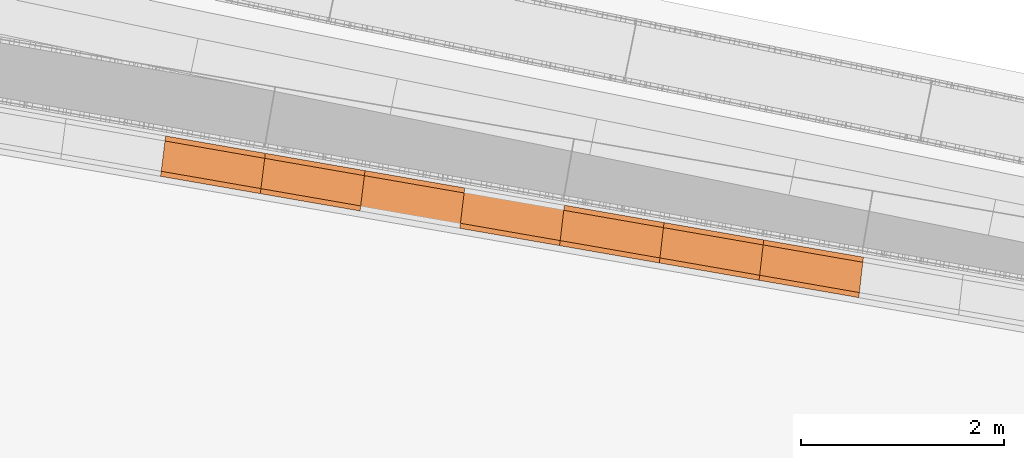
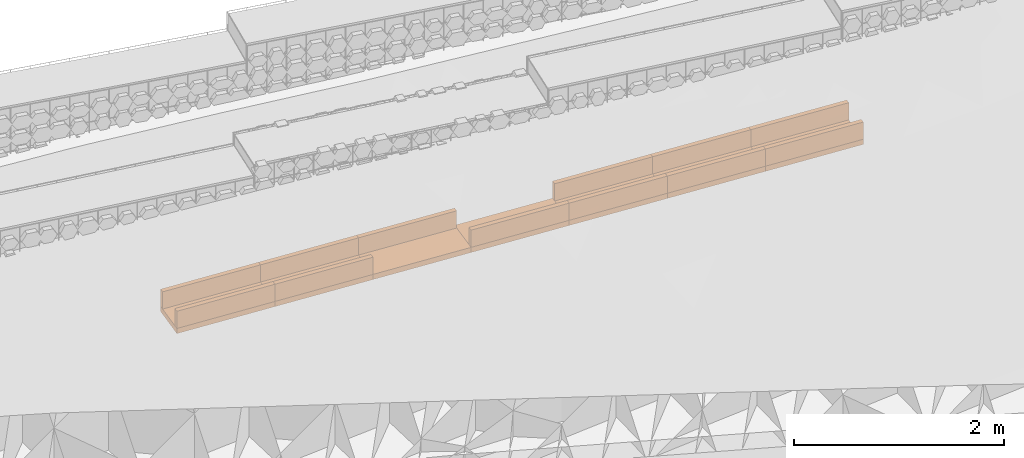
# Not in any storey, part 33 of 46: 19 proxies.
"""IFC4 model written with IfcOpenShell, lengths in metres."""

from ifc_helpers import new_model, si_unit, direction, frame, origin_with_axes, place, context, subcontext, project, spatial, polygons, material, element, save


model = new_model("IFC4")

# Units and contexts
model_context = context("Model", 3, precision=1e-05, world=origin_with_axes(), true_north=direction((0.0, 1.0)))
body_context = subcontext(model_context, "Body", "Model", "MODEL_VIEW")
ifc_project = project(units=[si_unit("VOLUMEUNIT", "CUBIC_METRE"), si_unit("LENGTHUNIT", "METRE"), si_unit("AREAUNIT", "SQUARE_METRE")], contexts=[model_context])

# Site
site_placement = place(None, origin_with_axes())
site = spatial("IfcSite", under=ifc_project, at=site_placement, Name="Lares · Rua das Mercês · artigo 4771")

# Proxies
ifc_material = material(Name="Caleiras · betão", Category="concrete")
proxy_1_placement = place(site_placement, frame((0.0, 0.0, 0.0), z_axis=(0.0, 0.0, 1.0), x_axis=(1.0, -1.03767253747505e-17, 0.0)))
element("IfcBuildingElementProxy", 1, at=proxy_1_placement, inside=site, material=ifc_material, Name="Acesso · canal lateral", ObjectType="Acesso · canal lateral", PredefinedType="USERDEFINED", context=body_context, shape_type="Tessellation", body=[
    polygons([(64.5883202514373, 8.87114563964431, 14.4534964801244), (64.6383043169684, 9.26801034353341, 14.4534964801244), (65.6186054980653, 9.0976955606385, 14.5279545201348), (65.5686214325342, 8.7008308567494, 14.5279545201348), (64.5883202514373, 8.87114563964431, 14.5134964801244), (64.6383043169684, 9.26801034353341, 14.5134964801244), (65.6186054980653, 9.0976955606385, 14.5879545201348), (65.5686214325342, 8.7008308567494, 14.5879545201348)], [[[4, 3, 2, 1]], [[5, 6, 7, 8]], [[1, 2, 6, 5]], [[2, 3, 7, 6]], [[3, 4, 8, 7]], [[4, 1, 5, 8]]]),
])
proxy_2_placement = place(site_placement, frame((0.0, 0.0, 0.0), z_axis=(0.0, 0.0, 1.0), x_axis=(1.0, -1.03767253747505e-17, 0.0)))
element("IfcBuildingElementProxy", 2, at=proxy_2_placement, inside=site, material=ifc_material, Name="Acesso · canal lateral", ObjectType="Acesso · canal lateral", PredefinedType="USERDEFINED", context=body_context, shape_type="Tessellation", body=[
    polygons([(64.5883202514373, 8.87114563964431, 14.5134964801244), (64.5945682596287, 8.92075372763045, 14.5134964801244), (65.5748694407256, 8.75043894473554, 14.5879545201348), (65.5686214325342, 8.7008308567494, 14.5879545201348), (64.5883202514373, 8.87114563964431, 14.7134964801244), (64.5945682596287, 8.92075372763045, 14.7134964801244), (65.5748694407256, 8.75043894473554, 14.7879545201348), (65.5686214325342, 8.7008308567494, 14.7879545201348)], [[[4, 3, 2, 1]], [[5, 6, 7, 8]], [[1, 2, 6, 5]], [[2, 3, 7, 6]], [[3, 4, 8, 7]], [[4, 1, 5, 8]]]),
])
proxy_3_placement = place(site_placement, frame((0.0, 0.0, 0.0), z_axis=(0.0, 0.0, 1.0), x_axis=(1.0, -1.03767253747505e-17, 0.0)))
element("IfcBuildingElementProxy", 3, at=proxy_3_placement, inside=site, material=ifc_material, Name="Acesso · canal lateral", ObjectType="Acesso · canal lateral", PredefinedType="USERDEFINED", context=body_context, shape_type="Tessellation", body=[
    polygons([(64.632056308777, 9.21840225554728, 14.5134964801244), (64.6383043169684, 9.26801034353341, 14.5134964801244), (65.6186054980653, 9.0976955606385, 14.5879545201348), (65.6123574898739, 9.04808747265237, 14.5879545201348), (64.632056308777, 9.21840225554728, 14.7134964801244), (64.6383043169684, 9.26801034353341, 14.7134964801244), (65.6186054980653, 9.0976955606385, 14.7879545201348), (65.6123574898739, 9.04808747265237, 14.7879545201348)], [[[4, 3, 2, 1]], [[5, 6, 7, 8]], [[1, 2, 6, 5]], [[2, 3, 7, 6]], [[3, 4, 8, 7]], [[4, 1, 5, 8]]]),
])
proxy_4_placement = place(site_placement, frame((0.0, 0.0, 0.0), z_axis=(0.0, 0.0, 1.0), x_axis=(1.0, -1.03767253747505e-17, 0.0)))
element("IfcBuildingElementProxy", 4, at=proxy_4_placement, inside=site, material=ifc_material, Name="Acesso · canal lateral", ObjectType="Acesso · canal lateral", PredefinedType="USERDEFINED", context=body_context, shape_type="Tessellation", body=[
    polygons([(65.5689536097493, 8.70078930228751, 14.5279545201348), (65.6182733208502, 9.09773711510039, 14.5279545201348), (66.5985619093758, 8.9274231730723, 14.6024125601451), (66.5492421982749, 8.53047536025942, 14.6024125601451), (65.5689536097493, 8.70078930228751, 14.5879545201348), (65.6182733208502, 9.09773711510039, 14.5879545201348), (66.5985619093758, 8.9274231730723, 14.6624125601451), (66.5492421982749, 8.53047536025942, 14.6624125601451)], [[[4, 3, 2, 1]], [[5, 6, 7, 8]], [[1, 2, 6, 5]], [[2, 3, 7, 6]], [[3, 4, 8, 7]], [[4, 1, 5, 8]]]),
])
proxy_5_placement = place(site_placement, frame((0.0, 0.0, 0.0), z_axis=(0.0, 0.0, 1.0), x_axis=(1.0, -1.03767253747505e-17, 0.0)))
element("IfcBuildingElementProxy", 5, at=proxy_5_placement, inside=site, material=ifc_material, Name="Acesso · canal lateral", ObjectType="Acesso · canal lateral", PredefinedType="USERDEFINED", context=body_context, shape_type="Tessellation", body=[
    polygons([(65.5689536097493, 8.70078930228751, 14.5879545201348), (65.575118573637, 8.75040777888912, 14.5879545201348), (66.5554071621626, 8.58009383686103, 14.6624125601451), (66.5492421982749, 8.53047536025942, 14.6624125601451), (65.5689536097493, 8.70078930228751, 14.7879545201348), (65.575118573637, 8.75040777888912, 14.7879545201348), (66.5554071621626, 8.58009383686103, 14.8624125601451), (66.5492421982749, 8.53047536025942, 14.8624125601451)], [[[4, 3, 2, 1]], [[5, 6, 7, 8]], [[1, 2, 6, 5]], [[2, 3, 7, 6]], [[3, 4, 8, 7]], [[4, 1, 5, 8]]]),
])
proxy_6_placement = place(site_placement, frame((0.0, 0.0, 0.0), z_axis=(0.0, 0.0, 1.0), x_axis=(1.0, -1.03767253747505e-17, 0.0)))
element("IfcBuildingElementProxy", 6, at=proxy_6_placement, inside=site, material=ifc_material, Name="Acesso · canal lateral", ObjectType="Acesso · canal lateral", PredefinedType="USERDEFINED", context=body_context, shape_type="Tessellation", body=[
    polygons([(65.6121083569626, 9.04811863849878, 14.5879545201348), (65.6182733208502, 9.09773711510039, 14.5879545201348), (66.5985619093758, 8.9274231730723, 14.6624125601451), (66.5923969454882, 8.87780469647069, 14.6624125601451), (65.6121083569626, 9.04811863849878, 14.7879545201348), (65.6182733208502, 9.09773711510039, 14.7879545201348), (66.5985619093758, 8.9274231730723, 14.8624125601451), (66.5923969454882, 8.87780469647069, 14.8624125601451)], [[[4, 3, 2, 1]], [[5, 6, 7, 8]], [[1, 2, 6, 5]], [[2, 3, 7, 6]], [[3, 4, 8, 7]], [[4, 1, 5, 8]]]),
])
proxy_7_placement = place(site_placement, frame((0.0, 0.0, 0.0), z_axis=(0.0, 0.0, 1.0), x_axis=(1.0, -1.03767253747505e-17, 0.0)))
element("IfcBuildingElementProxy", 7, at=proxy_7_placement, inside=site, material=ifc_material, Name="Acesso · canal lateral", ObjectType="Acesso · canal lateral", PredefinedType="USERDEFINED", context=body_context, shape_type="Tessellation", body=[
    polygons([(66.5495842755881, 8.53043315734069, 14.6024125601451), (66.5982198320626, 8.92746537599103, 14.6024125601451), (67.5784952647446, 8.75715227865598, 14.6768706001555), (67.5298597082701, 8.36012006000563, 14.6768706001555), (66.5495842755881, 8.53043315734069, 14.6624125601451), (66.5982198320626, 8.92746537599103, 14.6624125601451), (67.5784952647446, 8.75715227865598, 14.7368706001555), (67.5298597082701, 8.36012006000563, 14.7368706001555)], [[[4, 3, 2, 1]], [[5, 6, 7, 8]], [[1, 2, 6, 5]], [[2, 3, 7, 6]], [[3, 4, 8, 7]], [[4, 1, 5, 8]]]),
])
proxy_8_placement = place(site_placement, frame((0.0, 0.0, 0.0), z_axis=(0.0, 0.0, 1.0), x_axis=(1.0, -1.03767253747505e-17, 0.0)))
element("IfcBuildingElementProxy", 8, at=proxy_8_placement, inside=site, material=ifc_material, Name="Acesso · canal lateral", ObjectType="Acesso · canal lateral", PredefinedType="USERDEFINED", context=body_context, shape_type="Tessellation", body=[
    polygons([(66.5921403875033, 8.87783634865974, 14.6624125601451), (66.5982198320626, 8.92746537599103, 14.6624125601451), (67.5784952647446, 8.75715227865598, 14.7368706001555), (67.5724158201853, 8.70752325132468, 14.7368706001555), (66.5921403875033, 8.87783634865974, 14.8624125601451), (66.5982198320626, 8.92746537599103, 14.8624125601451), (67.5784952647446, 8.75715227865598, 14.9368706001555), (67.5724158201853, 8.70752325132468, 14.9368706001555)], [[[4, 3, 2, 1]], [[5, 6, 7, 8]], [[1, 2, 6, 5]], [[2, 3, 7, 6]], [[3, 4, 8, 7]], [[4, 1, 5, 8]]]),
])
proxy_9_placement = place(site_placement, frame((0.0, 0.0, 0.0), z_axis=(0.0, 0.0, 1.0), x_axis=(1.0, -1.03767253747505e-17, 0.0)))
element("IfcBuildingElementProxy", 9, at=proxy_9_placement, inside=site, material=ifc_material, Name="Acesso · canal lateral", ObjectType="Acesso · canal lateral", PredefinedType="USERDEFINED", context=body_context, shape_type="Tessellation", body=[
    polygons([(67.5302121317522, 8.36007720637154, 14.6768706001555), (67.5781428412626, 8.75719513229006, 14.6768706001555), (68.5584045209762, 8.58688288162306, 14.7513286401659), (68.5104738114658, 8.18976495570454, 14.7513286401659), (67.5302121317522, 8.36007720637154, 14.7368706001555), (67.5781428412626, 8.75719513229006, 14.7368706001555), (68.5584045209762, 8.58688288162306, 14.8113286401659), (68.5104738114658, 8.18976495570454, 14.8113286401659)], [[[4, 3, 2, 1]], [[5, 6, 7, 8]], [[1, 2, 6, 5]], [[2, 3, 7, 6]], [[3, 4, 8, 7]], [[4, 1, 5, 8]]]),
])
proxy_10_placement = place(site_placement, frame((0.0, 0.0, 0.0), z_axis=(0.0, 0.0, 1.0), x_axis=(1.0, -1.03767253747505e-17, 0.0)))
element("IfcBuildingElementProxy", 10, at=proxy_10_placement, inside=site, material=ifc_material, Name="Acesso · canal lateral", ObjectType="Acesso · canal lateral", PredefinedType="USERDEFINED", context=body_context, shape_type="Tessellation", body=[
    polygons([(67.5302121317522, 8.36007720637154, 14.7368706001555), (67.536203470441, 8.40971694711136, 14.7368706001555), (68.5164651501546, 8.23940469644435, 14.8113286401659), (68.5104738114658, 8.18976495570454, 14.8113286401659), (67.5302121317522, 8.36007720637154, 14.9368706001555), (67.536203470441, 8.40971694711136, 14.9368706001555), (68.5164651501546, 8.23940469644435, 15.0113286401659), (68.5104738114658, 8.18976495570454, 15.0113286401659)], [[[4, 3, 2, 1]], [[5, 6, 7, 8]], [[1, 2, 6, 5]], [[2, 3, 7, 6]], [[3, 4, 8, 7]], [[4, 1, 5, 8]]]),
])
proxy_11_placement = place(site_placement, frame((0.0, 0.0, 0.0), z_axis=(0.0, 0.0, 1.0), x_axis=(1.0, -1.03767253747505e-17, 0.0)))
element("IfcBuildingElementProxy", 11, at=proxy_11_placement, inside=site, material=ifc_material, Name="Acesso · canal lateral", ObjectType="Acesso · canal lateral", PredefinedType="USERDEFINED", context=body_context, shape_type="Tessellation", body=[
    polygons([(68.5108370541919, 8.18972145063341, 14.7513286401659), (68.5580412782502, 8.58692638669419, 14.7513286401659), (69.5382885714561, 8.41661498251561, 14.8257866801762), (69.4910843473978, 8.01941004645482, 14.8257866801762), (68.5108370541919, 8.18972145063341, 14.8113286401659), (68.5580412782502, 8.58692638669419, 14.8113286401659), (69.5382885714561, 8.41661498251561, 14.8857866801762), (69.4910843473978, 8.01941004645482, 14.8857866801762)], [[[4, 3, 2, 1]], [[5, 6, 7, 8]], [[1, 2, 6, 5]], [[2, 3, 7, 6]], [[3, 4, 8, 7]], [[4, 1, 5, 8]]]),
])
proxy_12_placement = place(site_placement, frame((0.0, 0.0, 0.0), z_axis=(0.0, 0.0, 1.0), x_axis=(1.0, -1.03767253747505e-17, 0.0)))
element("IfcBuildingElementProxy", 12, at=proxy_12_placement, inside=site, material=ifc_material, Name="Acesso · canal lateral", ObjectType="Acesso · canal lateral", PredefinedType="USERDEFINED", context=body_context, shape_type="Tessellation", body=[
    polygons([(68.5108370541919, 8.18972145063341, 14.8113286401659), (68.5167375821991, 8.239372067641, 14.8113286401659), (69.4969848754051, 8.06906066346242, 14.8857866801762), (69.4910843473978, 8.01941004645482, 14.8857866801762), (68.5108370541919, 8.18972145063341, 15.0113286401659), (68.5167375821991, 8.239372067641, 15.0113286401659), (69.4969848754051, 8.06906066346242, 15.0857866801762), (69.4910843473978, 8.01941004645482, 15.0857866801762)], [[[4, 3, 2, 1]], [[5, 6, 7, 8]], [[1, 2, 6, 5]], [[2, 3, 7, 6]], [[3, 4, 8, 7]], [[4, 1, 5, 8]]]),
])
proxy_13_placement = place(site_placement, frame((0.0, 0.0, 0.0), z_axis=(0.0, 0.0, 1.0), x_axis=(1.0, -1.03767253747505e-17, 0.0)))
element("IfcBuildingElementProxy", 13, at=proxy_13_placement, inside=site, material=ifc_material, Name="Acesso · canal lateral", ObjectType="Acesso · canal lateral", PredefinedType="USERDEFINED", context=body_context, shape_type="Tessellation", body=[
    polygons([(68.5521407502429, 8.53727576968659, 14.8113286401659), (68.5580412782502, 8.58692638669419, 14.8113286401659), (69.5382885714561, 8.41661498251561, 14.8857866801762), (69.5323880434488, 8.36696436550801, 14.8857866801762), (68.5521407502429, 8.53727576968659, 15.0113286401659), (68.5580412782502, 8.58692638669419, 15.0113286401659), (69.5382885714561, 8.41661498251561, 15.0857866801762), (69.5323880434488, 8.36696436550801, 15.0857866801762)], [[[4, 3, 2, 1]], [[5, 6, 7, 8]], [[1, 2, 6, 5]], [[2, 3, 7, 6]], [[3, 4, 8, 7]], [[4, 1, 5, 8]]]),
])
proxy_14_placement = place(site_placement, frame((0.0, 0.0, 0.0), z_axis=(0.0, 0.0, 1.0), x_axis=(1.0, -1.03767253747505e-17, 0.0)))
element("IfcBuildingElementProxy", 14, at=proxy_14_placement, inside=site, material=ifc_material, Name="Acesso · canal lateral", ObjectType="Acesso · canal lateral", PredefinedType="USERDEFINED", context=body_context, shape_type="Tessellation", body=[
    polygons([(69.491458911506, 8.01936589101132, 14.8257866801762), (69.5379140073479, 8.41665913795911, 14.8257866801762), (70.518146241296, 8.24634857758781, 14.9002447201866), (70.4716911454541, 7.84905533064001, 14.9002447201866), (69.491458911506, 8.01936589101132, 14.8857866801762), (69.5379140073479, 8.41665913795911, 14.8857866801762), (70.518146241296, 8.24634857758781, 14.9602447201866), (70.4716911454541, 7.84905533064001, 14.9602447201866)], [[[4, 3, 2, 1]], [[5, 6, 7, 8]], [[1, 2, 6, 5]], [[2, 3, 7, 6]], [[3, 4, 8, 7]], [[4, 1, 5, 8]]]),
])
proxy_15_placement = place(site_placement, frame((0.0, 0.0, 0.0), z_axis=(0.0, 0.0, 1.0), x_axis=(1.0, -1.03767253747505e-17, 0.0)))
element("IfcBuildingElementProxy", 15, at=proxy_15_placement, inside=site, material=ifc_material, Name="Acesso · canal lateral", ObjectType="Acesso · canal lateral", PredefinedType="USERDEFINED", context=body_context, shape_type="Tessellation", body=[
    polygons([(69.491458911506, 8.01936589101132, 14.8857866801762), (69.4972657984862, 8.06902754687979, 14.8857866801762), (70.4774980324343, 7.89871698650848, 14.9602447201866), (70.4716911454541, 7.84905533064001, 14.9602447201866), (69.491458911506, 8.01936589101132, 15.0857866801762), (69.4972657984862, 8.06902754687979, 15.0857866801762), (70.4774980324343, 7.89871698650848, 15.1602447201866), (70.4716911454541, 7.84905533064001, 15.1602447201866)], [[[4, 3, 2, 1]], [[5, 6, 7, 8]], [[1, 2, 6, 5]], [[2, 3, 7, 6]], [[3, 4, 8, 7]], [[4, 1, 5, 8]]]),
])
proxy_16_placement = place(site_placement, frame((0.0, 0.0, 0.0), z_axis=(0.0, 0.0, 1.0), x_axis=(1.0, -1.03767253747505e-17, 0.0)))
element("IfcBuildingElementProxy", 16, at=proxy_16_placement, inside=site, material=ifc_material, Name="Acesso · canal lateral", ObjectType="Acesso · canal lateral", PredefinedType="USERDEFINED", context=body_context, shape_type="Tessellation", body=[
    polygons([(69.5321071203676, 8.36699748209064, 14.8857866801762), (69.5379140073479, 8.41665913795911, 14.8857866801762), (70.5181462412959, 8.2463485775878, 14.9602447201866), (70.5123393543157, 8.19668692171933, 14.9602447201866), (69.5321071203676, 8.36699748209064, 15.0857866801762), (69.5379140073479, 8.41665913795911, 15.0857866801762), (70.5181462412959, 8.2463485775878, 15.1602447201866), (70.5123393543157, 8.19668692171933, 15.1602447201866)], [[[4, 3, 2, 1]], [[5, 6, 7, 8]], [[1, 2, 6, 5]], [[2, 3, 7, 6]], [[3, 4, 8, 7]], [[4, 1, 5, 8]]]),
])
proxy_17_placement = place(site_placement, frame((0.0, 0.0, 0.0), z_axis=(0.0, 0.0, 1.0), x_axis=(1.0, -1.03767253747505e-17, 0.0)))
element("IfcBuildingElementProxy", 17, at=proxy_17_placement, inside=site, material=ifc_material, Name="Acesso · canal lateral", ObjectType="Acesso · canal lateral", PredefinedType="USERDEFINED", context=body_context, shape_type="Tessellation", body=[
    polygons([(70.4720775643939, 7.84901052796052, 14.9002447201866), (70.5177598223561, 8.2463933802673, 14.9002447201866), (71.4979762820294, 8.07608365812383, 14.9747027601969), (71.4522940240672, 7.67870080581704, 14.9747027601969), (70.4720775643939, 7.84901052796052, 14.9602447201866), (70.5177598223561, 8.2463933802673, 14.9602447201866), (71.4979762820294, 8.07608365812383, 15.034702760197), (71.4522940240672, 7.67870080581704, 15.034702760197)], [[[4, 3, 2, 1]], [[5, 6, 7, 8]], [[1, 2, 6, 5]], [[2, 3, 7, 6]], [[3, 4, 8, 7]], [[4, 1, 5, 8]]]),
])
proxy_18_placement = place(site_placement, frame((0.0, 0.0, 0.0), z_axis=(0.0, 0.0, 1.0), x_axis=(1.0, -1.03767253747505e-17, 0.0)))
element("IfcBuildingElementProxy", 18, at=proxy_18_placement, inside=site, material=ifc_material, Name="Acesso · canal lateral", ObjectType="Acesso · canal lateral", PredefinedType="USERDEFINED", context=body_context, shape_type="Tessellation", body=[
    polygons([(70.4720775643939, 7.84901052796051, 14.9602447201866), (70.4777878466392, 7.89868338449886, 14.9602447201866), (71.4580043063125, 7.72837366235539, 15.034702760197), (71.4522940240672, 7.67870080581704, 15.034702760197), (70.4720775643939, 7.84901052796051, 15.1602447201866), (70.4777878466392, 7.89868338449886, 15.1602447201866), (71.4580043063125, 7.72837366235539, 15.2347027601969), (71.4522940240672, 7.67870080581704, 15.2347027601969)], [[[4, 3, 2, 1]], [[5, 6, 7, 8]], [[1, 2, 6, 5]], [[2, 3, 7, 6]], [[3, 4, 8, 7]], [[4, 1, 5, 8]]]),
])
proxy_19_placement = place(site_placement, frame((0.0, 0.0, 0.0), z_axis=(0.0, 0.0, 1.0), x_axis=(1.0, -1.03767253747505e-17, 0.0)))
element("IfcBuildingElementProxy", 19, at=proxy_19_placement, inside=site, material=ifc_material, Name="Acesso · canal lateral", ObjectType="Acesso · canal lateral", PredefinedType="USERDEFINED", context=body_context, shape_type="Tessellation", body=[
    polygons([(70.5120495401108, 8.19672052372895, 14.9602447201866), (70.5177598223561, 8.2463933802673, 14.9602447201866), (71.4979762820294, 8.07608365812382, 15.034702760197), (71.4922659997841, 8.02641080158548, 15.034702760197), (70.5120495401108, 8.19672052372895, 15.1602447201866), (70.5177598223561, 8.2463933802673, 15.1602447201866), (71.4979762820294, 8.07608365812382, 15.2347027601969), (71.4922659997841, 8.02641080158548, 15.2347027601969)], [[[4, 3, 2, 1]], [[5, 6, 7, 8]], [[1, 2, 6, 5]], [[2, 3, 7, 6]], [[3, 4, 8, 7]], [[4, 1, 5, 8]]]),
])

save(model, "model.ifc")
